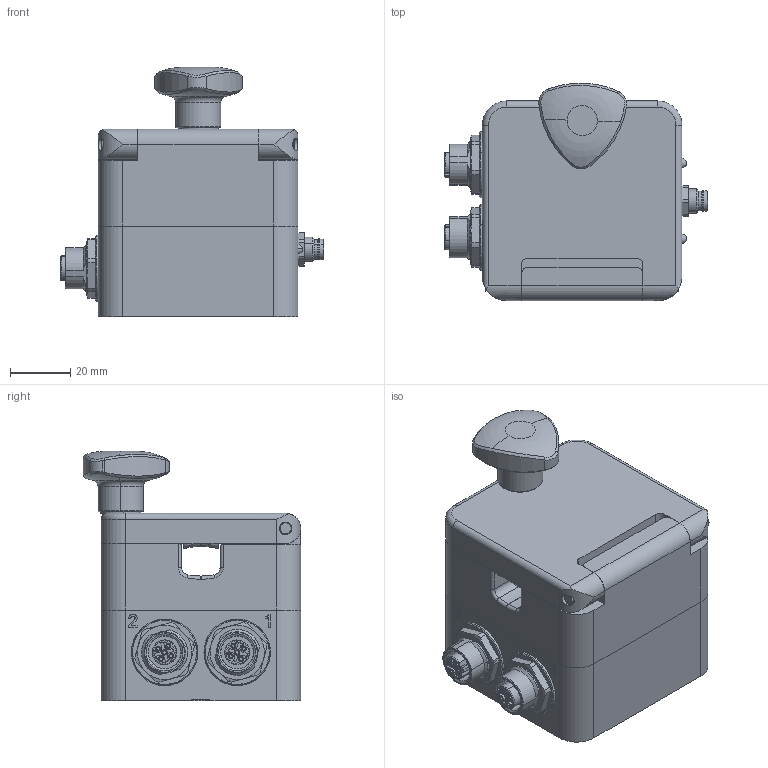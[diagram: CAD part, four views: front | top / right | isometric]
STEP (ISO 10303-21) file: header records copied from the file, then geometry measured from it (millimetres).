
FILE_DESCRIPTION (( 'STEP AP214' ), '1' );
FILE_NAME ('BCU-0500.STEP', '2025-07-29T14:30:05', ( '' ), ( '' ), 'SwSTEP 2.0', 'SolidWorks 2023', '' );
FILE_SCHEMA (( 'AUTOMOTIVE_DESIGN' ));
Length unit declared in the file: inch
Products named in the file (1): BCU-0500
Bounding box: 87.1 x 71.88 x 82.5 mm (x, y, z)
Volume: 173889.3 mm3; surface area: 61251.8 mm2
Topology: 17 solids, 30 shells, 1245 faces, 3070 edges, 1941 vertices
Faces by surface type: plane 422, cylinder 411, bspline 186, cone 151, torus 66, sphere 9
Entity records: 47221 total; most frequent: CARTESIAN_POINT 18642, ORIENTED_EDGE 6044, DIRECTION 5565, EDGE_CURVE 3022, AXIS2_PLACEMENT_3D 2115, VERTEX_POINT 1929, EDGE_LOOP 1389, LINE 1335
